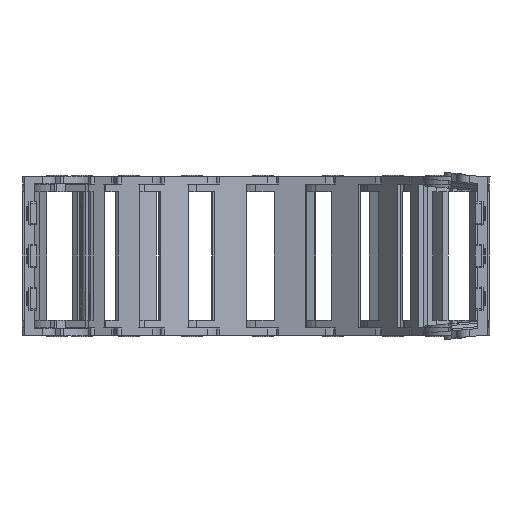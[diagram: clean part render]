
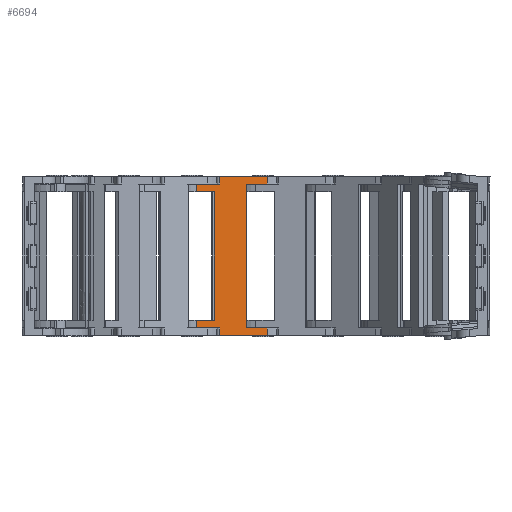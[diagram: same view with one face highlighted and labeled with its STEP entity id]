
A CAD part, left-side view. The second image highlights one B-rep face of the part: STEP entity #6694.
In plain terms, the highlighted planar face has unit normal (-0.99, -0.139, 0) as drawn and (0, -1, 0) by its records, which use the part's own axes.
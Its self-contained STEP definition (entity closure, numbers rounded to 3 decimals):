
#541=DIRECTION('',(-1.,0.,0.));
#542=VECTOR('',#541,4.4);
#543=CARTESIAN_POINT('',(-4.,-8.,-22.6));
#544=LINE('',#543,#542);
#599=DIRECTION('',(1.,0.,0.));
#600=VECTOR('',#599,4.4);
#601=CARTESIAN_POINT('',(-8.4,-8.,7.6));
#602=LINE('',#601,#600);
#840=DIRECTION('',(-1.,0.,0.));
#841=VECTOR('',#840,5.519);
#842=CARTESIAN_POINT('',(-2.881,-8.,9.35));
#843=LINE('',#842,#841);
#899=DIRECTION('',(1.,0.,0.));
#900=VECTOR('',#899,5.519);
#901=CARTESIAN_POINT('',(-8.4,-8.,-24.35));
#902=LINE('',#901,#900);
#2060=DIRECTION('',(1.,0.,0.));
#2061=VECTOR('',#2060,11.281);
#2062=CARTESIAN_POINT('',(-2.881,-8.,-26.1));
#2063=LINE('',#2062,#2061);
#2129=DIRECTION('',(-1.,0.,0.));
#2130=VECTOR('',#2129,4.9);
#2131=CARTESIAN_POINT('',(8.4,-8.,-24.35));
#2132=LINE('',#2131,#2130);
#2348=DIRECTION('',(1.,0.,0.));
#2349=VECTOR('',#2348,4.9);
#2350=CARTESIAN_POINT('',(3.5,-8.,9.35));
#2351=LINE('',#2350,#2349);
#2409=DIRECTION('',(-1.,0.,0.));
#2410=VECTOR('',#2409,11.281);
#2411=CARTESIAN_POINT('',(8.4,-8.,11.1));
#2412=LINE('',#2411,#2410);
#2483=DIRECTION('',(0.,0.,1.));
#2484=VECTOR('',#2483,1.75);
#2485=CARTESIAN_POINT('',(-8.4,-8.,7.6));
#2486=LINE('',#2485,#2484);
#2490=DIRECTION('',(0.,0.,-1.));
#2491=VECTOR('',#2490,1.75);
#2492=CARTESIAN_POINT('',(8.4,-8.,11.1));
#2493=LINE('',#2492,#2491);
#2497=DIRECTION('',(0.,0.,1.));
#2498=VECTOR('',#2497,1.75);
#2499=CARTESIAN_POINT('',(-2.881,-8.,-26.1));
#2500=LINE('',#2499,#2498);
#2504=DIRECTION('',(0.,0.,1.));
#2505=VECTOR('',#2504,1.75);
#2506=CARTESIAN_POINT('',(-8.4,-8.,-24.35));
#2507=LINE('',#2506,#2505);
#2511=DIRECTION('',(0.,0.,-1.));
#2512=VECTOR('',#2511,30.2);
#2513=CARTESIAN_POINT('',(-4.,-8.,7.6));
#2514=LINE('',#2513,#2512);
#2546=DIRECTION('',(0.,0.,-1.));
#2547=VECTOR('',#2546,1.75);
#2548=CARTESIAN_POINT('',(-2.881,-8.,11.1));
#2549=LINE('',#2548,#2547);
#2619=DIRECTION('',(0.,0.,1.));
#2620=VECTOR('',#2619,33.7);
#2621=CARTESIAN_POINT('',(3.5,-8.,-24.35));
#2622=LINE('',#2621,#2620);
#2626=DIRECTION('',(0.,0.,1.));
#2627=VECTOR('',#2626,1.75);
#2628=CARTESIAN_POINT('',(8.4,-8.,-26.1));
#2629=LINE('',#2628,#2627);
#4626=CARTESIAN_POINT('',(-2.881,-8.,-24.35));
#4627=VERTEX_POINT('',#4626);
#4632=CARTESIAN_POINT('',(-8.4,-8.,-24.35));
#4633=CARTESIAN_POINT('',(-8.4,-8.,-22.6));
#4634=VERTEX_POINT('',#4632);
#4635=VERTEX_POINT('',#4633);
#4642=CARTESIAN_POINT('',(-8.4,-8.,7.6));
#4643=CARTESIAN_POINT('',(-8.4,-8.,9.35));
#4644=VERTEX_POINT('',#4642);
#4645=VERTEX_POINT('',#4643);
#4648=CARTESIAN_POINT('',(-2.881,-8.,9.35));
#4649=VERTEX_POINT('',#4648);
#4667=CARTESIAN_POINT('',(8.4,-8.,-24.35));
#4669=VERTEX_POINT('',#4667);
#4680=CARTESIAN_POINT('',(3.5,-8.,-24.35));
#4681=VERTEX_POINT('',#4680);
#4682=CARTESIAN_POINT('',(3.5,-8.,9.35));
#4683=VERTEX_POINT('',#4682);
#4684=CARTESIAN_POINT('',(8.4,-8.,9.35));
#4685=VERTEX_POINT('',#4684);
#5076=CARTESIAN_POINT('',(-2.881,-8.,-26.1));
#5077=VERTEX_POINT('',#5076);
#5078=CARTESIAN_POINT('',(8.4,-8.,-26.1));
#5079=VERTEX_POINT('',#5078);
#5086=CARTESIAN_POINT('',(8.4,-8.,11.1));
#5087=CARTESIAN_POINT('',(-2.881,-8.,11.1));
#5088=VERTEX_POINT('',#5086);
#5089=VERTEX_POINT('',#5087);
#5112=CARTESIAN_POINT('',(-4.,-8.,7.6));
#5114=VERTEX_POINT('',#5112);
#5117=CARTESIAN_POINT('',(-4.,-8.,-22.6));
#5119=VERTEX_POINT('',#5117);
#6666=CARTESIAN_POINT('',(-8.4,-8.,-25.6));
#6667=DIRECTION('',(0.,-1.,0.));
#6668=DIRECTION('',(1.,0.,0.));
#6669=AXIS2_PLACEMENT_3D('',#6666,#6667,#6668);
#6670=PLANE('',#6669);
#6671=ORIENTED_EDGE('',*,*,#5335,.F.);
#6673=ORIENTED_EDGE('',*,*,#6672,.F.);
#6674=ORIENTED_EDGE('',*,*,#5402,.F.);
#6675=ORIENTED_EDGE('',*,*,#5619,.T.);
#6676=ORIENTED_EDGE('',*,*,#5675,.F.);
#6678=ORIENTED_EDGE('',*,*,#6677,.F.);
#6679=ORIENTED_EDGE('',*,*,#6577,.F.);
#6680=ORIENTED_EDGE('',*,*,#6651,.T.);
#6681=ORIENTED_EDGE('',*,*,#6506,.F.);
#6683=ORIENTED_EDGE('',*,*,#6682,.F.);
#6684=ORIENTED_EDGE('',*,*,#6326,.F.);
#6686=ORIENTED_EDGE('',*,*,#6685,.F.);
#6687=ORIENTED_EDGE('',*,*,#6053,.F.);
#6689=ORIENTED_EDGE('',*,*,#6688,.T.);
#6690=ORIENTED_EDGE('',*,*,#5745,.F.);
#6691=ORIENTED_EDGE('',*,*,#5802,.T.);
#6692=EDGE_LOOP('',(#6671,#6673,#6674,#6675,#6676,#6678,#6679,#6680,#6681,#6683,
#6684,#6686,#6687,#6689,#6690,#6691));
#6693=FACE_OUTER_BOUND('',#6692,.F.);
#6694=ADVANCED_FACE('',(#6693),#6670,.T.);
#5335=EDGE_CURVE('',#5119,#4635,#544,.T.);
#5402=EDGE_CURVE('',#4644,#5114,#602,.T.);
#5619=EDGE_CURVE('',#4644,#4645,#2486,.T.);
#5675=EDGE_CURVE('',#4649,#4645,#843,.T.);
#5745=EDGE_CURVE('',#4634,#4627,#902,.T.);
#5802=EDGE_CURVE('',#4634,#4635,#2507,.T.);
#6053=EDGE_CURVE('',#5077,#5079,#2063,.T.);
#6326=EDGE_CURVE('',#4669,#4681,#2132,.T.);
#6506=EDGE_CURVE('',#4683,#4685,#2351,.T.);
#6577=EDGE_CURVE('',#5088,#5089,#2412,.T.);
#6651=EDGE_CURVE('',#5088,#4685,#2493,.T.);
#6672=EDGE_CURVE('',#5114,#5119,#2514,.T.);
#6677=EDGE_CURVE('',#5089,#4649,#2549,.T.);
#6682=EDGE_CURVE('',#4681,#4683,#2622,.T.);
#6685=EDGE_CURVE('',#5079,#4669,#2629,.T.);
#6688=EDGE_CURVE('',#5077,#4627,#2500,.T.);
